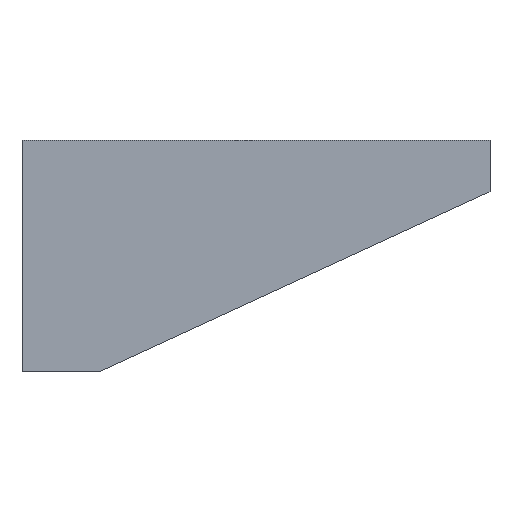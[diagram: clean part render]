
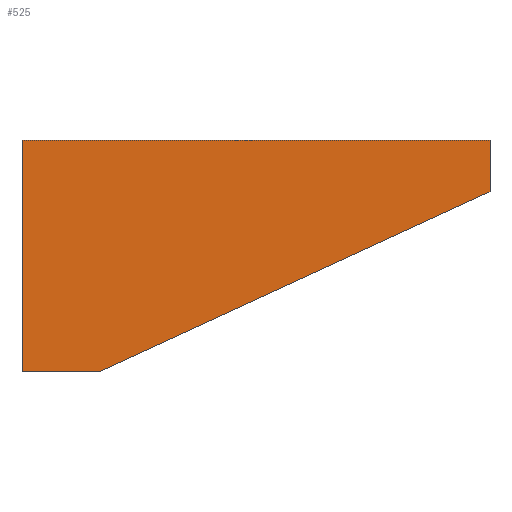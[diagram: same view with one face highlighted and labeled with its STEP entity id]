
A CAD part, front view. The second image highlights one B-rep face of the part: STEP entity #525.
In plain terms, the highlighted planar face has unit normal (0, -1, 0).
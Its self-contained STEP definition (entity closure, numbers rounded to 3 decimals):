
#7 = ORIENTED_EDGE ( 'NONE', *, *, #314, .F. ) ;
#276 = EDGE_LOOP ( 'NONE', ( #7, #2632, #3754, #3118, #1232 ) ) ;
#296 = DIRECTION ( 'NONE',  ( 1., 0., 0. ) ) ;
#314 = EDGE_CURVE ( 'NONE', #473, #939, #2327, .T. ) ;
#473 = VERTEX_POINT ( 'NONE', #2198 ) ;
#525 = ADVANCED_FACE ( 'NONE', ( #1404 ), #3243, .T. ) ;
#558 = EDGE_CURVE ( 'NONE', #4944, #939, #3315, .T. ) ;
#614 = VECTOR ( 'NONE', #3501, 1000. ) ;
#915 = DIRECTION ( 'NONE',  ( 0., 0., 1. ) ) ;
#939 = VERTEX_POINT ( 'NONE', #1828 ) ;
#966 = LINE ( 'NONE', #1268, #4151 ) ;
#1111 = CARTESIAN_POINT ( 'NONE',  ( 0., 0., -450. ) ) ;
#1232 = ORIENTED_EDGE ( 'NONE', *, *, #558, .T. ) ;
#1268 = CARTESIAN_POINT ( 'NONE',  ( 197.222, 0., -428.253 ) ) ;
#1287 = DIRECTION ( 'NONE',  ( 0., 0., 1. ) ) ;
#1302 = DIRECTION ( 'NONE',  ( 1., 0., 0. ) ) ;
#1328 = CARTESIAN_POINT ( 'NONE',  ( 910., 0., -100. ) ) ;
#1339 = CARTESIAN_POINT ( 'NONE',  ( 0., 0., -100. ) ) ;
#1404 = FACE_OUTER_BOUND ( 'NONE', #276, .T. ) ;
#1487 = LINE ( 'NONE', #1111, #4474 ) ;
#1617 = CARTESIAN_POINT ( 'NONE',  ( 910., 0., -100. ) ) ;
#1622 = VECTOR ( 'NONE', #1287, 1000. ) ;
#1828 = CARTESIAN_POINT ( 'NONE',  ( 910., 0., 0. ) ) ;
#1881 = CARTESIAN_POINT ( 'NONE',  ( 150., 0., -450. ) ) ;
#2198 = CARTESIAN_POINT ( 'NONE',  ( 0., 0., 0. ) ) ;
#2327 = LINE ( 'NONE', #3789, #614 ) ;
#2394 = AXIS2_PLACEMENT_3D ( 'NONE', #1328, #3347, #1302 ) ;
#2632 = ORIENTED_EDGE ( 'NONE', *, *, #4693, .F. ) ;
#2851 = EDGE_CURVE ( 'NONE', #3269, #3432, #1487, .T. ) ;
#3118 = ORIENTED_EDGE ( 'NONE', *, *, #4290, .T. ) ;
#3243 = PLANE ( 'NONE',  #2394 ) ;
#3260 = DIRECTION ( 'NONE',  ( 0.908, 0., 0.418 ) ) ;
#3269 = VERTEX_POINT ( 'NONE', #3507 ) ;
#3315 = LINE ( 'NONE', #4811, #4750 ) ;
#3347 = DIRECTION ( 'NONE',  ( 0., -1., 0. ) ) ;
#3432 = VERTEX_POINT ( 'NONE', #1881 ) ;
#3501 = DIRECTION ( 'NONE',  ( 1., 0., 0. ) ) ;
#3507 = CARTESIAN_POINT ( 'NONE',  ( 0., 0., -450. ) ) ;
#3754 = ORIENTED_EDGE ( 'NONE', *, *, #2851, .T. ) ;
#3789 = CARTESIAN_POINT ( 'NONE',  ( 910., 0., 0. ) ) ;
#4151 = VECTOR ( 'NONE', #3260, 1000. ) ;
#4290 = EDGE_CURVE ( 'NONE', #3432, #4944, #966, .T. ) ;
#4474 = VECTOR ( 'NONE', #296, 1000. ) ;
#4693 = EDGE_CURVE ( 'NONE', #3269, #473, #4832, .T. ) ;
#4750 = VECTOR ( 'NONE', #915, 1000. ) ;
#4811 = CARTESIAN_POINT ( 'NONE',  ( 910., 0., -100. ) ) ;
#4832 = LINE ( 'NONE', #1339, #1622 ) ;
#4944 = VERTEX_POINT ( 'NONE', #1617 ) ;
